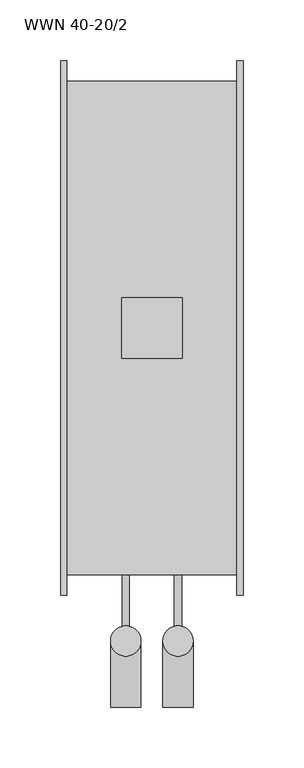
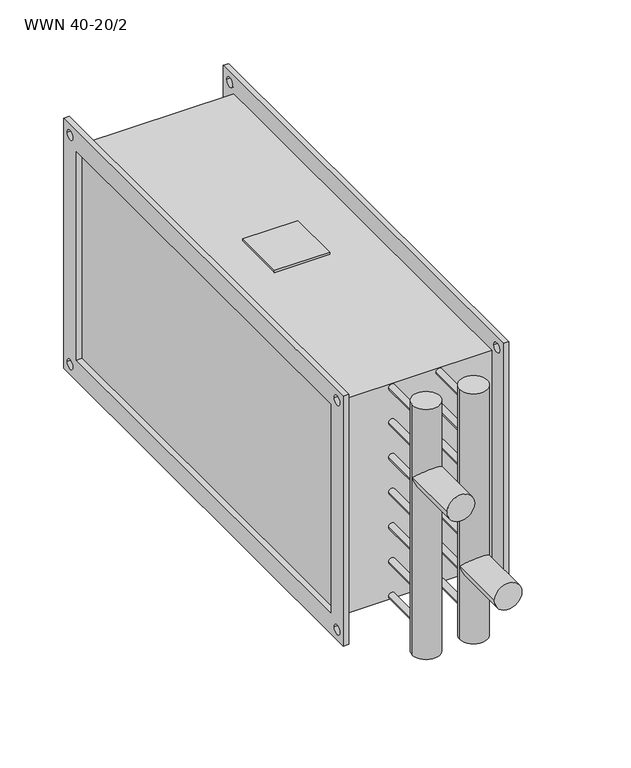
"""IFC4 building model written with IfcOpenShell, lengths in millimetres: proxy geometry, KORF_Нагреватель_Водяной_WWN : WWN 40-20/2."""

from ifc_helpers import new_model, si_unit, point, frame, frame_2d, origin, place, context, project, spatial, polyline, circle_curve, ellipse_curve, trimmed, segment, composite_curve, outline, extrude, source, transform, mapped, element, save
from ifc_brep_helpers import plane_surface, cylinder_surface, advanced_brep


def wwn_40_20_2_b6206a83(model_context):
    return source(origin(), model_context, "Body", "SolidModel", [
        extrude(outline(polyline([(50.0, -25.0), (50.0, 25.0), (100.0, 25.0), (100.0, -25.0), (50.0, -25.0)])), frame((0.0, 0.0, 103.0), z_axis=(0.0, 0.0, 1.0), x_axis=(1.0, 0.0, 0.0)), (0.0, 0.0, 1.0), 2.0),
        extrude(outline(polyline([(-220.0, 120.0), (220.0, 120.0), (220.0, -120.0), (-220.0, -120.0), (-220.0, 120.0)]), holes=[polyline([(-200.0, 100.0), (-200.0, -100.0), (200.0, -100.0), (200.0, 100.0), (-200.0, 100.0)]), composite_curve([segment(trimmed(circle_curve(frame_2d((210.0, 110.0)), 4.5), [point((205.5, 110.0))], [point((214.5, 110.0))], True, "CARTESIAN"), True, "CONTINUOUS"), segment(trimmed(circle_curve(frame_2d((210.0, 110.0)), 4.5), [point((214.5, 110.0))], [point((205.5, 110.0))], True, "CARTESIAN"), True, "CONTINUOUS")], self_intersect=False), composite_curve([segment(trimmed(circle_curve(frame_2d((-210.0, 110.0)), 4.5), [point((-214.5, 110.0))], [point((-205.5, 110.0))], True, "CARTESIAN"), True, "CONTINUOUS"), segment(trimmed(circle_curve(frame_2d((-210.0, 110.0)), 4.5), [point((-205.5, 110.0))], [point((-214.5, 110.0))], True, "CARTESIAN"), True, "CONTINUOUS")], self_intersect=False), composite_curve([segment(trimmed(circle_curve(frame_2d((-210.0, -110.0)), 4.5), [point((-214.5, -110.0))], [point((-205.5, -110.0))], True, "CARTESIAN"), True, "CONTINUOUS"), segment(trimmed(circle_curve(frame_2d((-210.0, -110.0)), 4.5), [point((-205.5, -110.0))], [point((-214.5, -110.0))], True, "CARTESIAN"), True, "CONTINUOUS")], self_intersect=False), composite_curve([segment(trimmed(circle_curve(frame_2d((210.0, -110.0)), 4.5), [point((205.5, -110.0))], [point((214.5, -110.0))], True, "CARTESIAN"), True, "CONTINUOUS"), segment(trimmed(circle_curve(frame_2d((210.0, -110.0)), 4.5), [point((214.5, -110.0))], [point((205.5, -110.0))], True, "CARTESIAN"), True, "CONTINUOUS")], self_intersect=False)]), frame((145.0, 0.0, 0.0), z_axis=(1.0, 0.0, 0.0), x_axis=(0.0, 1.0, 0.0)), (0.0, 0.0, 1.0), 5.0),
        extrude(outline(polyline([(-220.0, 120.0), (220.0, 120.0), (220.0, -120.0), (-220.0, -120.0), (-220.0, 120.0)]), holes=[polyline([(-200.0, 100.0), (-200.0, -100.0), (200.0, -100.0), (200.0, 100.0), (-200.0, 100.0)]), composite_curve([segment(trimmed(circle_curve(frame_2d((210.0, 110.0)), 4.5), [point((205.5, 110.0))], [point((214.5, 110.0))], True, "CARTESIAN"), True, "CONTINUOUS"), segment(trimmed(circle_curve(frame_2d((210.0, 110.0)), 4.5), [point((214.5, 110.0))], [point((205.5, 110.0))], True, "CARTESIAN"), True, "CONTINUOUS")], self_intersect=False), composite_curve([segment(trimmed(circle_curve(frame_2d((-210.0, 110.0)), 4.5), [point((-214.5, 110.0))], [point((-205.5, 110.0))], True, "CARTESIAN"), True, "CONTINUOUS"), segment(trimmed(circle_curve(frame_2d((-210.0, 110.0)), 4.5), [point((-205.5, 110.0))], [point((-214.5, 110.0))], True, "CARTESIAN"), True, "CONTINUOUS")], self_intersect=False), composite_curve([segment(trimmed(circle_curve(frame_2d((-210.0, -110.0)), 4.5), [point((-214.5, -110.0))], [point((-205.5, -110.0))], True, "CARTESIAN"), True, "CONTINUOUS"), segment(trimmed(circle_curve(frame_2d((-210.0, -110.0)), 4.5), [point((-205.5, -110.0))], [point((-214.5, -110.0))], True, "CARTESIAN"), True, "CONTINUOUS")], self_intersect=False), composite_curve([segment(trimmed(circle_curve(frame_2d((210.0, -110.0)), 4.5), [point((205.5, -110.0))], [point((214.5, -110.0))], True, "CARTESIAN"), True, "CONTINUOUS"), segment(trimmed(circle_curve(frame_2d((210.0, -110.0)), 4.5), [point((214.5, -110.0))], [point((205.5, -110.0))], True, "CARTESIAN"), True, "CONTINUOUS")], self_intersect=False)]), frame((0.0, 0.0, 0.0), z_axis=(1.0, 0.0, 0.0), x_axis=(0.0, 1.0, 0.0)), (0.0, 0.0, 1.0), 5.0),
        extrude(outline(polyline([(145.0, 203.0), (145.0, -203.0), (5.0, -203.0), (5.0, 203.0), (145.0, 203.0)])), frame((0.0, 0.0, -103.0), z_axis=(0.0, 0.0, 1.0), x_axis=(1.0, 0.0, 0.0)), (0.0, 0.0, 1.0), 206.0),
        advanced_brep(
        [(41.0, -312.0, 50.0), (66.0, -312.0, 50.0), (41.0, -257.5, 50.0), (66.0, -257.5, 50.0), (41.0, -257.5, 120.0), (66.0, -257.5, 120.0), (41.0, -257.5, -120.0), (66.0, -257.5, -120.0)],
        [
            (0, 1, circle_curve(frame((53.5, -312.0, 50.0), z_axis=(0.0, -1.0, 0.0), x_axis=(1.0, 0.0, 0.0)), 12.5)),
            (1, 0, circle_curve(frame((53.5, -312.0, 50.0), z_axis=(0.0, -1.0, 0.0), x_axis=(1.0, 0.0, 0.0)), 12.5)),
            (0, 2),
            (2, 3, ellipse_curve(frame((53.5, -257.5, 50.0), z_axis=(0.0, -0.7071067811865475, 0.7071067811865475), x_axis=(0.0, -0.7071067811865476, -0.7071067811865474)), 17.6776695, 12.5)),
            (3, 1),
            (3, 2, ellipse_curve(frame((53.5, -257.5, 50.0), z_axis=(0.0, -0.7071067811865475, -0.7071067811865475), x_axis=(0.0, -0.7071067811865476, 0.7071067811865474)), 17.6776695, 12.5)),
            (4, 5, circle_curve(frame((53.5, -257.5, 120.0), z_axis=(0.0, 0.0, 1.0), x_axis=(1.0, 0.0, 0.0)), 12.5)),
            (5, 4, circle_curve(frame((53.5, -257.5, 120.0), z_axis=(0.0, 0.0, 1.0), x_axis=(1.0, 0.0, 0.0)), 12.5)),
            (6, 7, circle_curve(frame((53.5, -257.5, -120.0), z_axis=(0.0, 0.0, -1.0), x_axis=(1.0, 0.0, 0.0)), 12.5)),
            (7, 6, circle_curve(frame((53.5, -257.5, -120.0), z_axis=(0.0, 0.0, -1.0), x_axis=(1.0, 0.0, 0.0)), 12.5)),
            (4, 2),
            (3, 5),
            (7, 3),
            (2, 6),
        ],
        [
            plane_surface(frame((66.0, -312.0, 50.0), z_axis=(0.0, -1.0, 0.0), x_axis=(0.0, 0.0, 1.0))),
            cylinder_surface(frame((53.5, -257.5, 50.0), z_axis=(0.0, -1.0, 0.0), x_axis=(1.0, 0.0, 0.0)), 12.5),
            plane_surface(frame((66.0, -257.5, 120.0), z_axis=(0.0, 0.0, 1.0), x_axis=(0.0, 1.0, 0.0))),
            plane_surface(frame((66.0, -257.5, -120.0), z_axis=(0.0, 0.0, -1.0), x_axis=(0.0, -1.0, 0.0))),
            cylinder_surface(frame((53.5, -257.5, -120.0), z_axis=(0.0, 0.0, 1.0), x_axis=(1.0, 0.0, 0.0)), 12.5),
        ],
        [
            (0, [[1, 2]]),
            (1, [[-1, 3, 4, 5]]),
            (1, [[-2, -5, 6, -3]]),
            (2, [[7, 8]]),
            (3, [[9, 10]]),
            (4, [[-7, 11, -6, 12]]),
            (4, [[-10, 13, -4, 14]]),
            (4, [[-8, -12, -13, -9, -14, -11]]),
        ],
    ),
        advanced_brep(
        [(84.0, -312.0, -50.0), (109.0, -312.0, -50.0), (84.0, -257.5, -50.0), (109.0, -257.5, -50.0), (84.0, -257.5, 120.0), (109.0, -257.5, 120.0), (84.0, -257.5, -120.0), (109.0, -257.5, -120.0)],
        [
            (0, 1, circle_curve(frame((96.5, -312.0, -50.0), z_axis=(0.0, -1.0, 0.0), x_axis=(1.0, 0.0, 0.0)), 12.5)),
            (1, 0, circle_curve(frame((96.5, -312.0, -50.0), z_axis=(0.0, -1.0, 0.0), x_axis=(1.0, 0.0, 0.0)), 12.5)),
            (0, 2),
            (2, 3, ellipse_curve(frame((96.5, -257.5, -50.0), z_axis=(0.0, -0.7071067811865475, 0.7071067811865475), x_axis=(0.0, -0.7071067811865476, -0.7071067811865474)), 17.6776695, 12.5)),
            (3, 1),
            (3, 2, ellipse_curve(frame((96.5, -257.5, -50.0), z_axis=(0.0, -0.7071067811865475, -0.7071067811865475), x_axis=(0.0, -0.7071067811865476, 0.7071067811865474)), 17.6776695, 12.5)),
            (4, 5, circle_curve(frame((96.5, -257.5, 120.0), z_axis=(0.0, 0.0, 1.0), x_axis=(1.0, 0.0, 0.0)), 12.5)),
            (5, 4, circle_curve(frame((96.5, -257.5, 120.0), z_axis=(0.0, 0.0, 1.0), x_axis=(1.0, 0.0, 0.0)), 12.5)),
            (6, 7, circle_curve(frame((96.5, -257.5, -120.0), z_axis=(0.0, 0.0, -1.0), x_axis=(1.0, 0.0, 0.0)), 12.5)),
            (7, 6, circle_curve(frame((96.5, -257.5, -120.0), z_axis=(0.0, 0.0, -1.0), x_axis=(1.0, 0.0, 0.0)), 12.5)),
            (4, 2),
            (3, 5),
            (7, 3),
            (2, 6),
        ],
        [
            plane_surface(frame((66.0, -312.0, 50.0), z_axis=(0.0, -1.0, 0.0), x_axis=(0.0, 0.0, 1.0))),
            cylinder_surface(frame((96.5, 0.0, -50.0), z_axis=(0.0, -1.0, 0.0), x_axis=(1.0, 0.0, 0.0)), 12.5),
            plane_surface(frame((66.0, -257.5, 120.0), z_axis=(0.0, 0.0, 1.0), x_axis=(0.0, 1.0, 0.0))),
            plane_surface(frame((66.0, -257.5, -120.0), z_axis=(0.0, 0.0, -1.0), x_axis=(0.0, -1.0, 0.0))),
            cylinder_surface(frame((96.5, -257.5, 0.0), z_axis=(0.0, 0.0, 1.0), x_axis=(1.0, 0.0, 0.0)), 12.5),
        ],
        [
            (0, [[1, 2]]),
            (1, [[-1, 3, 4, 5]]),
            (1, [[-2, -5, 6, -3]]),
            (2, [[7, 8]]),
            (3, [[9, 10]]),
            (4, [[-7, 11, -6, 12]]),
            (4, [[-10, 13, -4, 14]]),
            (4, [[-8, -12, -13, -9, -14, -11]]),
        ],
    ),
        extrude(outline(composite_curve([segment(trimmed(circle_curve(frame_2d((100.0, 53.5)), 3.0), [point((100.0, 50.5))], [point((100.0, 56.5))], False, "CARTESIAN"), True, "CONTINUOUS"), segment(trimmed(circle_curve(frame_2d((100.0, 53.5)), 3.0), [point((100.0, 56.5))], [point((100.0, 50.5))], False, "CARTESIAN"), True, "CONTINUOUS")], self_intersect=False)), frame((0.0, -257.5, 0.0), z_axis=(0.0, 1.0, 0.0), x_axis=(0.0, 0.0, 1.0)), (0.0, 0.0, 1.0), 54.5),
        extrude(outline(composite_curve([segment(trimmed(circle_curve(frame_2d((66.6666667, 53.5)), 3.0), [point((66.6666667, 50.5))], [point((66.6666667, 56.5))], False, "CARTESIAN"), True, "CONTINUOUS"), segment(trimmed(circle_curve(frame_2d((66.6666667, 53.5)), 3.0), [point((66.6666667, 56.5))], [point((66.6666667, 50.5))], False, "CARTESIAN"), True, "CONTINUOUS")], self_intersect=False)), frame((0.0, -257.5, 0.0), z_axis=(0.0, 1.0, 0.0), x_axis=(0.0, 0.0, 1.0)), (0.0, 0.0, 1.0), 54.5),
        extrude(outline(composite_curve([segment(trimmed(circle_curve(frame_2d((33.3333333, 53.5)), 3.0), [point((33.3333333, 50.5))], [point((33.3333333, 56.5))], False, "CARTESIAN"), True, "CONTINUOUS"), segment(trimmed(circle_curve(frame_2d((33.3333333, 53.5)), 3.0), [point((33.3333333, 56.5))], [point((33.3333333, 50.5))], False, "CARTESIAN"), True, "CONTINUOUS")], self_intersect=False)), frame((0.0, -257.5, 0.0), z_axis=(0.0, 1.0, 0.0), x_axis=(0.0, 0.0, 1.0)), (0.0, 0.0, 1.0), 54.5),
        extrude(outline(composite_curve([segment(trimmed(circle_curve(frame_2d((0.0, 53.5)), 3.0), [point((0.0, 50.5))], [point((0.0, 56.5))], False, "CARTESIAN"), True, "CONTINUOUS"), segment(trimmed(circle_curve(frame_2d((0.0, 53.5)), 3.0), [point((0.0, 56.5))], [point((0.0, 50.5))], False, "CARTESIAN"), True, "CONTINUOUS")], self_intersect=False)), frame((0.0, -257.5, 0.0), z_axis=(0.0, 1.0, 0.0), x_axis=(0.0, 0.0, 1.0)), (0.0, 0.0, 1.0), 54.5),
        extrude(outline(composite_curve([segment(trimmed(circle_curve(frame_2d((-33.3333333, 53.5)), 3.0), [point((-33.3333333, 50.5))], [point((-33.3333333, 56.5))], False, "CARTESIAN"), True, "CONTINUOUS"), segment(trimmed(circle_curve(frame_2d((-33.3333333, 53.5)), 3.0), [point((-33.3333333, 56.5))], [point((-33.3333333, 50.5))], False, "CARTESIAN"), True, "CONTINUOUS")], self_intersect=False)), frame((0.0, -257.5, 0.0), z_axis=(0.0, 1.0, 0.0), x_axis=(0.0, 0.0, 1.0)), (0.0, 0.0, 1.0), 54.5),
        extrude(outline(composite_curve([segment(trimmed(circle_curve(frame_2d((-66.6666667, 53.5)), 3.0), [point((-66.6666667, 50.5))], [point((-66.6666667, 56.5))], False, "CARTESIAN"), True, "CONTINUOUS"), segment(trimmed(circle_curve(frame_2d((-66.6666667, 53.5)), 3.0), [point((-66.6666667, 56.5))], [point((-66.6666667, 50.5))], False, "CARTESIAN"), True, "CONTINUOUS")], self_intersect=False)), frame((0.0, -257.5, 0.0), z_axis=(0.0, 1.0, 0.0), x_axis=(0.0, 0.0, 1.0)), (0.0, 0.0, 1.0), 54.5),
        extrude(outline(composite_curve([segment(trimmed(circle_curve(frame_2d((-66.6666667, 96.5)), 3.0), [point((-66.6666667, 93.5))], [point((-66.6666667, 99.5))], False, "CARTESIAN"), True, "CONTINUOUS"), segment(trimmed(circle_curve(frame_2d((-66.6666667, 96.5)), 3.0), [point((-66.6666667, 99.5))], [point((-66.6666667, 93.5))], False, "CARTESIAN"), True, "CONTINUOUS")], self_intersect=False)), frame((0.0, -257.5, 0.0), z_axis=(0.0, 1.0, 0.0), x_axis=(0.0, 0.0, 1.0)), (0.0, 0.0, 1.0), 54.5),
        extrude(outline(composite_curve([segment(trimmed(circle_curve(frame_2d((-33.3333333, 96.5)), 3.0), [point((-33.3333333, 93.5))], [point((-33.3333333, 99.5))], False, "CARTESIAN"), True, "CONTINUOUS"), segment(trimmed(circle_curve(frame_2d((-33.3333333, 96.5)), 3.0), [point((-33.3333333, 99.5))], [point((-33.3333333, 93.5))], False, "CARTESIAN"), True, "CONTINUOUS")], self_intersect=False)), frame((0.0, -257.5, 0.0), z_axis=(0.0, 1.0, 0.0), x_axis=(0.0, 0.0, 1.0)), (0.0, 0.0, 1.0), 54.5),
        extrude(outline(composite_curve([segment(trimmed(circle_curve(frame_2d((0.0, 96.5)), 3.0), [point((0.0, 93.5))], [point((0.0, 99.5))], False, "CARTESIAN"), True, "CONTINUOUS"), segment(trimmed(circle_curve(frame_2d((0.0, 96.5)), 3.0), [point((0.0, 99.5))], [point((0.0, 93.5))], False, "CARTESIAN"), True, "CONTINUOUS")], self_intersect=False)), frame((0.0, -257.5, 0.0), z_axis=(0.0, 1.0, 0.0), x_axis=(0.0, 0.0, 1.0)), (0.0, 0.0, 1.0), 54.5),
        extrude(outline(composite_curve([segment(trimmed(circle_curve(frame_2d((33.3333333, 96.5)), 3.0), [point((33.3333333, 93.5))], [point((33.3333333, 99.5))], False, "CARTESIAN"), True, "CONTINUOUS"), segment(trimmed(circle_curve(frame_2d((33.3333333, 96.5)), 3.0), [point((33.3333333, 99.5))], [point((33.3333333, 93.5))], False, "CARTESIAN"), True, "CONTINUOUS")], self_intersect=False)), frame((0.0, -257.5, 0.0), z_axis=(0.0, 1.0, 0.0), x_axis=(0.0, 0.0, 1.0)), (0.0, 0.0, 1.0), 54.5),
        extrude(outline(composite_curve([segment(trimmed(circle_curve(frame_2d((66.6666667, 96.5)), 3.0), [point((66.6666667, 93.5))], [point((66.6666667, 99.5))], False, "CARTESIAN"), True, "CONTINUOUS"), segment(trimmed(circle_curve(frame_2d((66.6666667, 96.5)), 3.0), [point((66.6666667, 99.5))], [point((66.6666667, 93.5))], False, "CARTESIAN"), True, "CONTINUOUS")], self_intersect=False)), frame((0.0, -257.5, 0.0), z_axis=(0.0, 1.0, 0.0), x_axis=(0.0, 0.0, 1.0)), (0.0, 0.0, 1.0), 54.5),
        extrude(outline(composite_curve([segment(trimmed(circle_curve(frame_2d((100.0, 96.5)), 3.0), [point((100.0, 93.5))], [point((100.0, 99.5))], False, "CARTESIAN"), True, "CONTINUOUS"), segment(trimmed(circle_curve(frame_2d((100.0, 96.5)), 3.0), [point((100.0, 99.5))], [point((100.0, 93.5))], False, "CARTESIAN"), True, "CONTINUOUS")], self_intersect=False)), frame((0.0, -257.5, 0.0), z_axis=(0.0, 1.0, 0.0), x_axis=(0.0, 0.0, 1.0)), (0.0, 0.0, 1.0), 54.5),
        extrude(outline(composite_curve([segment(trimmed(circle_curve(frame_2d((-100.0, 53.5)), 3.0), [point((-100.0, 50.5))], [point((-100.0, 56.5))], False, "CARTESIAN"), True, "CONTINUOUS"), segment(trimmed(circle_curve(frame_2d((-100.0, 53.5)), 3.0), [point((-100.0, 56.5))], [point((-100.0, 50.5))], False, "CARTESIAN"), True, "CONTINUOUS")], self_intersect=False)), frame((0.0, -257.5, 0.0), z_axis=(0.0, 1.0, 0.0), x_axis=(0.0, 0.0, 1.0)), (0.0, 0.0, 1.0), 54.5),
        extrude(outline(composite_curve([segment(trimmed(circle_curve(frame_2d((-100.0, 96.5)), 3.0), [point((-100.0, 93.5))], [point((-100.0, 99.5))], False, "CARTESIAN"), True, "CONTINUOUS"), segment(trimmed(circle_curve(frame_2d((-100.0, 96.5)), 3.0), [point((-100.0, 99.5))], [point((-100.0, 93.5))], False, "CARTESIAN"), True, "CONTINUOUS")], self_intersect=False)), frame((0.0, -257.5, 0.0), z_axis=(0.0, 1.0, 0.0), x_axis=(0.0, 0.0, 1.0)), (0.0, 0.0, 1.0), 54.5),
    ])


if __name__ == "__main__":
    model = new_model("IFC4")
    model_context = context("Model", 3, world=origin())
    ifc_project = project(units=[si_unit("LENGTHUNIT", "METRE", prefix="MILLI")], contexts=[model_context])
    site = spatial("IfcSite", under=ifc_project)
    building = spatial("IfcBuilding", under=site)
    placement = place(None, origin())
    wwn_40_20_2_shape = wwn_40_20_2_b6206a83(model_context)
    element("IfcBuildingElementProxy", 1, Name="KORF_Нагреватель_Водяной_WWN : WWN 40-20/2", ObjectType="KORF_Нагреватель_Водяной_WWN : WWN 40-20/2", at=placement, inside=building, context=model_context, shape_type="MappedRepresentation", body=[
        mapped(wwn_40_20_2_shape, transform((0.0, 0.0, 0.0), x_axis=(1.0, 0.0, 0.0), y_axis=(0.0, 1.0, 0.0), z_axis=(0.0, 0.0, 1.0))),
    ])
    save(model, "model.ifc")
